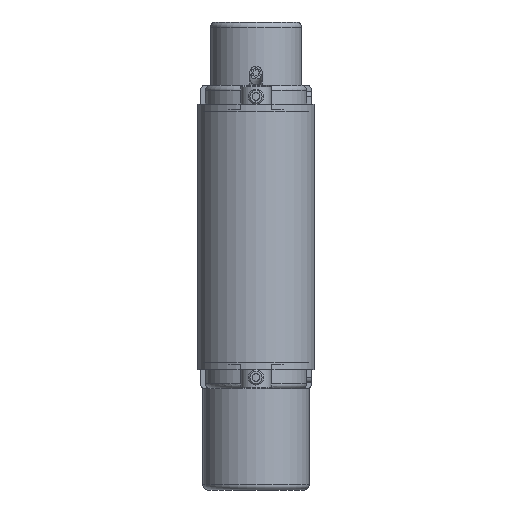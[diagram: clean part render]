
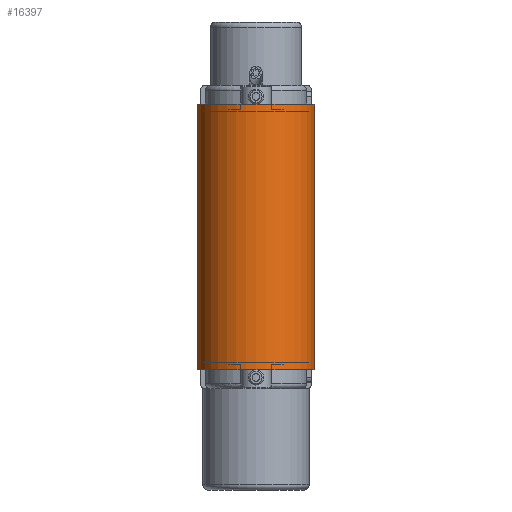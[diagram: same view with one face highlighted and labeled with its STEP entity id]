
A CAD part, front view. The second image highlights one B-rep face of the part: STEP entity #16397.
In plain terms, the highlighted cylindrical face has radius 23.3 mm (diameter 46.6 mm), a partial arc.
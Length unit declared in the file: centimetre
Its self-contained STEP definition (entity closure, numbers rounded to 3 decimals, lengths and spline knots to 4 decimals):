
#1188=FACE_OUTER_BOUND('',#2095,.T.);
#2095=EDGE_LOOP('',(#11076,#11077,#11078,#11079));
#3130=LINE('',#24416,#4394);
#3131=LINE('',#24420,#4395);
#4394=VECTOR('',#19637,1.);
#4395=VECTOR('',#19642,1.);
#5605=CIRCLE('',#17469,2.33);
#5608=CIRCLE('',#17475,2.33);
#6574=VERTEX_POINT('',#24399);
#6575=VERTEX_POINT('',#24400);
#6580=VERTEX_POINT('',#24414);
#6581=VERTEX_POINT('',#24418);
#8317=EDGE_CURVE('',#6574,#6575,#5605,.T.);
#8325=EDGE_CURVE('',#6580,#6575,#3130,.T.);
#8326=EDGE_CURVE('',#6580,#6581,#5608,.T.);
#8327=EDGE_CURVE('',#6574,#6581,#3131,.T.);
#11076=ORIENTED_EDGE('',*,*,#8326,.T.);
#11077=ORIENTED_EDGE('',*,*,#8327,.F.);
#11078=ORIENTED_EDGE('',*,*,#8317,.T.);
#11079=ORIENTED_EDGE('',*,*,#8325,.F.);
#15130=CYLINDRICAL_SURFACE('',#17474,2.33);
#16397=ADVANCED_FACE('',(#1188),#15130,.T.);
#17469=AXIS2_PLACEMENT_3D('',#24401,#19622,#19623);
#17474=AXIS2_PLACEMENT_3D('',#24417,#19638,#19639);
#17475=AXIS2_PLACEMENT_3D('',#24419,#19640,#19641);
#19622=DIRECTION('center_axis',(0.,0.,
-1.));
#19623=DIRECTION('ref_axis',(-1.,0.,0.));
#19637=DIRECTION('',(0.,0.,1.));
#19638=DIRECTION('center_axis',(0.,0.,
-1.));
#19639=DIRECTION('ref_axis',(-1.,0.,0.));
#19640=DIRECTION('center_axis',(0.,0.,
1.));
#19641=DIRECTION('ref_axis',(-1.,0.,0.));
#19642=DIRECTION('',(0.,0.,-1.));
#24399=CARTESIAN_POINT('',(2.33,-77.,5.25));
#24400=CARTESIAN_POINT('',(-2.33,-77.,5.25));
#24401=CARTESIAN_POINT('Origin',(0.,-77.,5.25));
#24414=CARTESIAN_POINT('',(-2.33,-77.,-5.25));
#24416=CARTESIAN_POINT('',(-2.33,-77.,0.));
#24417=CARTESIAN_POINT('Origin',(0.,-77.,0.));
#24418=CARTESIAN_POINT('',(2.33,-77.,-5.25));
#24419=CARTESIAN_POINT('Origin',(0.,-77.,-5.25));
#24420=CARTESIAN_POINT('',(2.33,-77.,0.));
